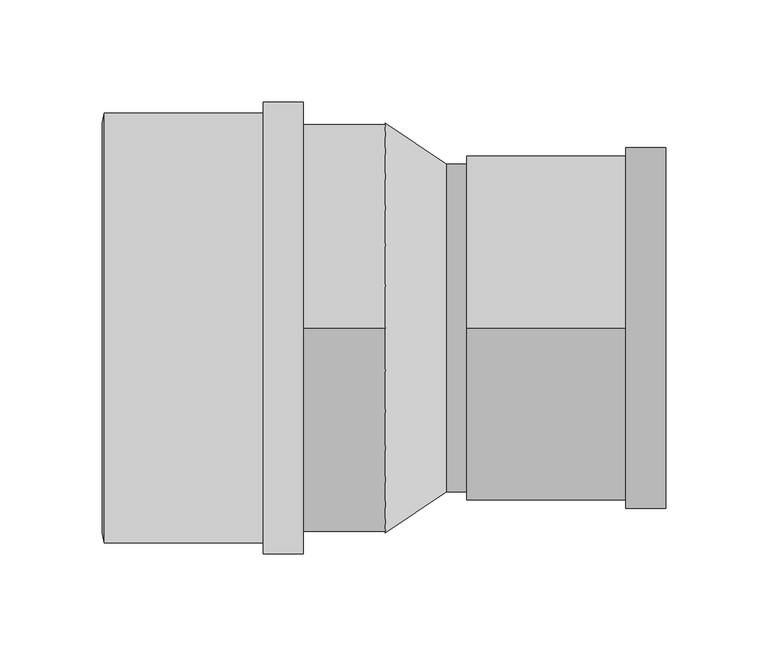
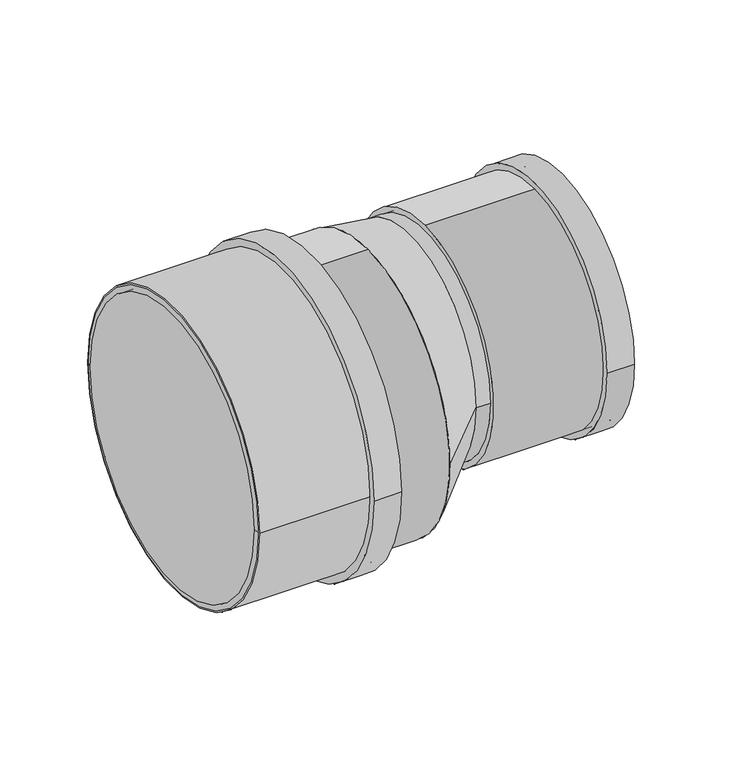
"""IFC4 building model written with IfcOpenShell, lengths in millimetres: pipe fitting geometry, Superdrain SKR-Reducer : Superdrain SKR-Reducer."""

from ifc_helpers import new_model, si_unit, point, frame, frame_2d, origin, origin_2d, place, context, project, spatial, polyline, circle_curve, trimmed, segment, composite_curve, outline, extrude, source, transform, mapped, element, save
from ifc_brep_helpers import plane_surface, revolved_surface, spline_surface, advanced_brep


def pipe_fitting_7fe0ab3b(model_context):
    return source(origin(), model_context, "Body", "SolidModel", [
        extrude(outline(composite_curve([segment(trimmed(circle_curve(frame_2d((0.0, 0.1450234)), 105.0), [point((105.0, 0.1450234))], [point((-105.0, 0.1450234))], False, "CARTESIAN"), True, "CONTINUOUS"), segment(trimmed(circle_curve(frame_2d((0.0, 0.1450234)), 105.0), [point((-105.0, 0.1450234))], [point((105.0, 0.1450234))], False, "CARTESIAN"), True, "CONTINUOUS")], self_intersect=False), holes=[composite_curve([segment(trimmed(circle_curve(frame_2d((0.0, 0.1450234)), 100.0), [point((100.0, 0.1450234))], [point((-100.0, 0.1450234))], True, "CARTESIAN"), True, "CONTINUOUS"), segment(trimmed(circle_curve(frame_2d((0.0, 0.1450234)), 100.0), [point((-100.0, 0.1450234))], [point((100.0, 0.1450234))], True, "CARTESIAN"), True, "CONTINUOUS")], self_intersect=False)]), frame((-137.0, 0.0, 0.0), z_axis=(1.0, 0.0, 0.0), x_axis=(0.0, 1.0, 0.0)), (0.0, 0.0, 1.0), 97.0),
        extrude(outline(composite_curve([segment(trimmed(circle_curve(frame_2d((0.0, 0.1450234)), 110.25), [point((110.25, 0.1450234))], [point((-110.25, 0.1450234))], False, "CARTESIAN"), True, "CONTINUOUS"), segment(trimmed(circle_curve(frame_2d((0.0, 0.1450234)), 110.25), [point((-110.25, 0.1450234))], [point((110.25, 0.1450234))], False, "CARTESIAN"), True, "CONTINUOUS")], self_intersect=False), holes=[composite_curve([segment(trimmed(circle_curve(frame_2d((0.0, 0.1450234)), 100.0), [point((100.0, 0.1450234))], [point((-100.0, 0.1450234))], True, "CARTESIAN"), True, "CONTINUOUS"), segment(trimmed(circle_curve(frame_2d((0.0, 0.1450234)), 100.0), [point((-100.0, 0.1450234))], [point((100.0, 0.1450234))], True, "CARTESIAN"), True, "CONTINUOUS")], self_intersect=False)]), frame((-59.4, 0.0, 0.0), z_axis=(1.0, 0.0, 0.0), x_axis=(0.0, 1.0, 0.0)), (0.0, 0.0, 1.0), 19.4),
        advanced_brep(
        [(-138.0, 100.0, 0.1450234), (-138.0, -100.0, 0.1450234), (-137.0, 105.0, 0.1450234), (-137.0, -105.0, 0.1450234)],
        [
            (0, 1, circle_curve(frame((-138.0, 0.0, 0.1450234), z_axis=(-1.0, 0.0, 0.0), x_axis=(0.0, 1.0, 0.0)), 100.0)),
            (1, 0, circle_curve(frame((-138.0, 0.0, 0.1450234), z_axis=(-1.0, 0.0, 0.0), x_axis=(0.0, -1.0, 0.0)), 100.0)),
            (2, 3, circle_curve(frame((-137.0, 0.0, 0.1450234), z_axis=(1.0, 0.0, 0.0), x_axis=(0.0, -1.0, 0.0)), 105.0)),
            (3, 2, circle_curve(frame((-137.0, 0.0, 0.1450234), z_axis=(1.0, 0.0, 0.0), x_axis=(0.0, 1.0, 0.0)), 105.0)),
            (3, 1),
            (0, 2),
        ],
        [
            plane_surface(frame((-138.0, 0.0, 0.1450234), z_axis=(-1.0, 0.0, 0.0), x_axis=(0.0, 0.0, -1.0))),
            plane_surface(frame((-137.0, 0.0, 0.1450234), z_axis=(1.0, 0.0, 0.0), x_axis=(0.0, 0.0, -1.0))),
            revolved_surface(polyline([(-138.0, 100.0, 0.1450234), (-137.0, 105.0, 0.1450234)]), (-158.0, 0.0, 0.1450234), (1.0, 0.0, 0.0)),
            revolved_surface(polyline([(-138.0, -100.0, 0.1450234), (-137.0, -105.0, 0.1450234)]), (-158.0, 0.0, 0.1450234), (1.0, 0.0, 0.0)),
        ],
        [
            (0, [[1, 2]]),
            (1, [[3, 4]]),
            (2, [[-4, 5, -1, 6]]),
            (3, [[-3, -6, -2, -5]]),
        ],
    ),
        advanced_brep(
        [(30.0, -80.0, 20.0), (30.0, 80.0, 20.0), (0.0, -100.0, 0.0), (0.0, 100.0, 0.0)],
        [
            (0, 1, circle_curve(frame((30.0, 0.0, 20.0), z_axis=(1.0, 0.0, 0.0), x_axis=(0.0, 1.0, 0.0)), 80.0)),
            (1, 0, circle_curve(frame((30.0, 0.0, 20.0), z_axis=(1.0, 0.0, 0.0), x_axis=(0.0, 1.0, 0.0)), 80.0)),
            (2, 3, circle_curve(frame((0.0, 0.0, 0.0), z_axis=(-1.0, 0.0, 0.0), x_axis=(0.0, 1.0, 0.0)), 100.0)),
            (3, 2, circle_curve(frame((0.0, 0.0, 0.0), z_axis=(-1.0, 0.0, 0.0), x_axis=(0.0, 1.0, 0.0)), 100.0)),
            (3, 1),
            (0, 2),
        ],
        [
            plane_surface(frame((30.0, 0.0, 20.0), z_axis=(1.0, 0.0, 0.0), x_axis=(0.0, 0.0, -1.0))),
            plane_surface(frame((0.0, 0.0, 0.0), z_axis=(-1.0, 0.0, 0.0), x_axis=(0.0, 0.0, -1.0))),
            spline_surface(2, 1, [[(0.0, -100.0, 0.0), (30.0, -80.0, 20.0)], [(0.0, -100.0, -100.0), (30.0, -80.0, -60.0)], [(0.0, 0.0, -100.0), (30.0, 0.0, -60.0)], [(0.0, 100.0, -100.0), (30.0, 80.0, -60.0)], [(0.0, 100.0, 0.0), (30.0, 80.0, 20.0)]], [3, 2, 3], [2, 2], [0.0, 1.0, 2.0], [0.0, 1.0], weights=[[1.0, 1.0], [0.7071067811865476, 0.7071067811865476], [1.0, 1.0], [0.7071067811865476, 0.7071067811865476], [1.0, 1.0]]),
            spline_surface(2, 1, [[(0.0, 100.0, 0.0), (30.0, 80.0, 20.0)], [(0.0, 100.0, 100.0), (30.0, 80.0, 100.0)], [(0.0, 0.0, 100.0), (30.0, 0.0, 100.0)], [(0.0, -100.0, 100.0), (30.0, -80.0, 100.0)], [(0.0, -100.0, 0.0), (30.0, -80.0, 20.0)]], [3, 2, 3], [2, 2], [0.0, 1.0, 2.0], [0.0, 1.0], weights=[[1.0, 1.0], [0.7071067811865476, 0.7071067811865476], [1.0, 1.0], [0.7071067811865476, 0.7071067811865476], [1.0, 1.0]]),
        ],
        [
            (0, [[1, 2]]),
            (1, [[3, 4]]),
            (2, [[-4, 5, -1, 6]]),
            (3, [[-3, -6, -2, -5]]),
        ],
    ),
        extrude(outline(composite_curve([segment(trimmed(circle_curve(frame_2d((0.0, 20.0)), 80.0), [point((-80.0, 20.0))], [point((80.0, 20.0))], False, "CARTESIAN"), True, "CONTINUOUS"), segment(trimmed(circle_curve(frame_2d((0.0, 20.0)), 80.0), [point((80.0, 20.0))], [point((-80.0, 20.0))], False, "CARTESIAN"), True, "CONTINUOUS")], self_intersect=False)), frame((30.0, 0.0, 0.0), z_axis=(1.0, 0.0, 0.0), x_axis=(0.0, 1.0, 0.0)), (0.0, 0.0, 1.0), 10.0),
        extrude(outline(composite_curve([segment(trimmed(circle_curve(frame_2d((0.0, 20.0)), 88.2), [point((-88.2, 20.0))], [point((88.2, 20.0))], False, "CARTESIAN"), True, "CONTINUOUS"), segment(trimmed(circle_curve(frame_2d((0.0, 20.0)), 88.2), [point((88.2, 20.0))], [point((-88.2, 20.0))], False, "CARTESIAN"), True, "CONTINUOUS")], self_intersect=False), holes=[composite_curve([segment(trimmed(circle_curve(frame_2d((0.0, 20.0)), 80.0), [point((80.0, 20.0))], [point((-80.0, 20.0))], True, "CARTESIAN"), True, "CONTINUOUS"), segment(trimmed(circle_curve(frame_2d((0.0, 20.0)), 80.0), [point((-80.0, 20.0))], [point((80.0, 20.0))], True, "CARTESIAN"), True, "CONTINUOUS")], self_intersect=False)]), frame((117.6, 0.0, 0.0), z_axis=(1.0, 0.0, 0.0), x_axis=(0.0, 1.0, 0.0)), (0.0, 0.0, 1.0), 19.4),
        extrude(outline(composite_curve([segment(trimmed(circle_curve(frame_2d((0.0, 20.0)), 84.0), [point((0.0, 104.0))], [point((0.0, -64.0))], False, "CARTESIAN"), True, "CONTINUOUS"), segment(trimmed(circle_curve(frame_2d((0.0, 20.0)), 84.0), [point((0.0, -64.0))], [point((0.0, 104.0))], False, "CARTESIAN"), True, "CONTINUOUS")], self_intersect=False), holes=[composite_curve([segment(trimmed(circle_curve(frame_2d((0.0, 20.0)), 80.0), [point((80.0, 20.0))], [point((-80.0, 20.0))], True, "CARTESIAN"), True, "CONTINUOUS"), segment(trimmed(circle_curve(frame_2d((0.0, 20.0)), 80.0), [point((-80.0, 20.0))], [point((80.0, 20.0))], True, "CARTESIAN"), True, "CONTINUOUS")], self_intersect=False)]), frame((40.0, 0.0, 0.0), z_axis=(1.0, 0.0, 0.0), x_axis=(0.0, 1.0, 0.0)), (0.0, 0.0, 1.0), 97.0),
        extrude(outline(composite_curve([segment(trimmed(circle_curve(origin_2d(), 100.0), [point((0.0, 100.0))], [point((0.0, -100.0))], False, "CARTESIAN"), True, "CONTINUOUS"), segment(trimmed(circle_curve(origin_2d(), 100.0), [point((0.0, -100.0))], [point((0.0, 100.0))], False, "CARTESIAN"), True, "CONTINUOUS")], self_intersect=False)), frame((-137.0, 0.0, 0.0), z_axis=(1.0, 0.0, 0.0), x_axis=(0.0, 1.0, 0.0)), (0.0, 0.0, 1.0), 137.0),
    ])


if __name__ == "__main__":
    model = new_model("IFC4")
    model_context = context("Model", 3, world=origin())
    ifc_project = project(units=[si_unit("LENGTHUNIT", "METRE", prefix="MILLI")], contexts=[model_context])
    site = spatial("IfcSite", under=ifc_project)
    building = spatial("IfcBuilding", under=site)
    placement = place(None, origin())
    pipe_fitting_shape = pipe_fitting_7fe0ab3b(model_context)
    element("IfcPipeFitting", 1, ObjectType="Superdrain SKR-Reducer : Superdrain SKR-Reducer", at=placement, inside=building, context=model_context, shape_type="MappedRepresentation", body=[
        mapped(pipe_fitting_shape, transform((0.0, 0.0, 0.0), x_axis=(1.0, 0.0, 0.0), y_axis=(0.0, 1.0, 0.0), z_axis=(0.0, 0.0, 1.0))),
    ])
    save(model, "model.ifc")
